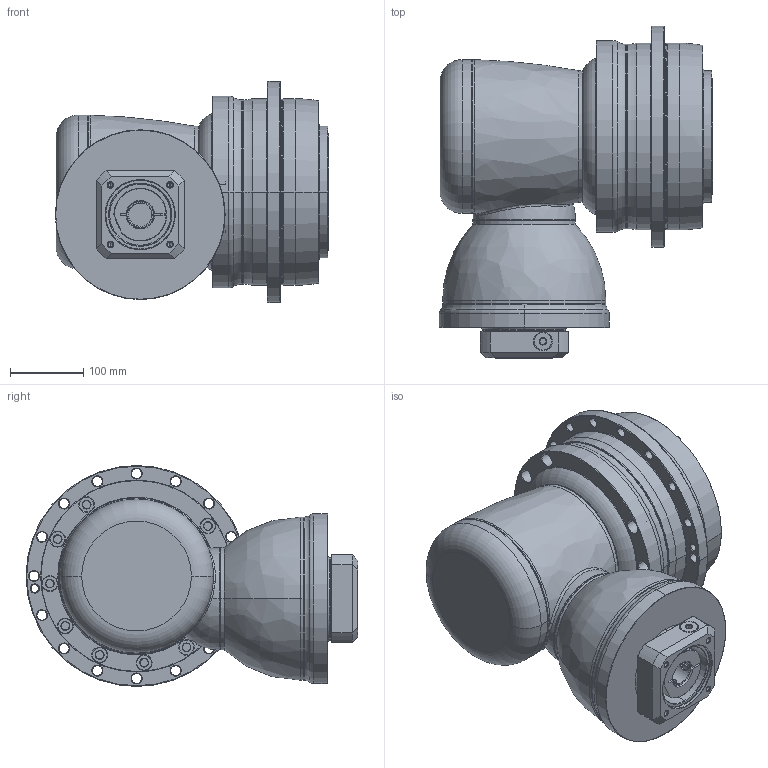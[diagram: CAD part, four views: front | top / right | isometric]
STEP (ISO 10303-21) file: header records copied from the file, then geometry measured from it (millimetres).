
FILE_DESCRIPTION((''),'2;1');
FILE_NAME('AHK255_2ST_32-P0409700101_ASM','2016-10-14T',('d01943'),(''),'PRO/ENGINEER BY PARAMETRIC TECHNOLOGY CORPORATION, 2008410','PRO/ENGINEER BY PARAMETRIC TECHNOLOGY CORPORATION, 2008410','');
FILE_SCHEMA(('CONFIG_CONTROL_DESIGN'));
Length unit declared in the file: millimetre
Products named in the file (12): P1008600002; P1802700001; P0278700003; P0359700003; P1315600001; P1007600001; P1318600001; P0503700010; P0912600201; P0409700101; 21711418017; AHK255_2ST_32-P0409700101_ASM
Assembly tree (11 placements, depth 2):
  AHK255_2ST_32-P0409700101_ASM
    P1008600002
    P1802700001
    P0278700003
    P0359700003
    P1315600001
    P1007600001
    P1318600001
    P0503700010
    P0912600201
    P0409700101
    21711418017
Bounding box: 373.5 x 453.5 x 302 mm (x, y, z)
Volume: 15784483.5 mm3; surface area: 1276189.1 mm2
Topology: 12 solids, 12 shells, 929 faces, 2107 edges, 1228 vertices
Faces by surface type: cylinder 332, cone 300, plane 134, torus 126, bspline 35, sphere 2
Entity records: 32518 total; most frequent: CARTESIAN_POINT 11020, DIRECTION 4950, ORIENTED_EDGE 4122, AXIS2_PLACEMENT_3D 2123, EDGE_CURVE 2061, VERTEX_POINT 1228, CIRCLE 1206, EDGE_LOOP 1091
